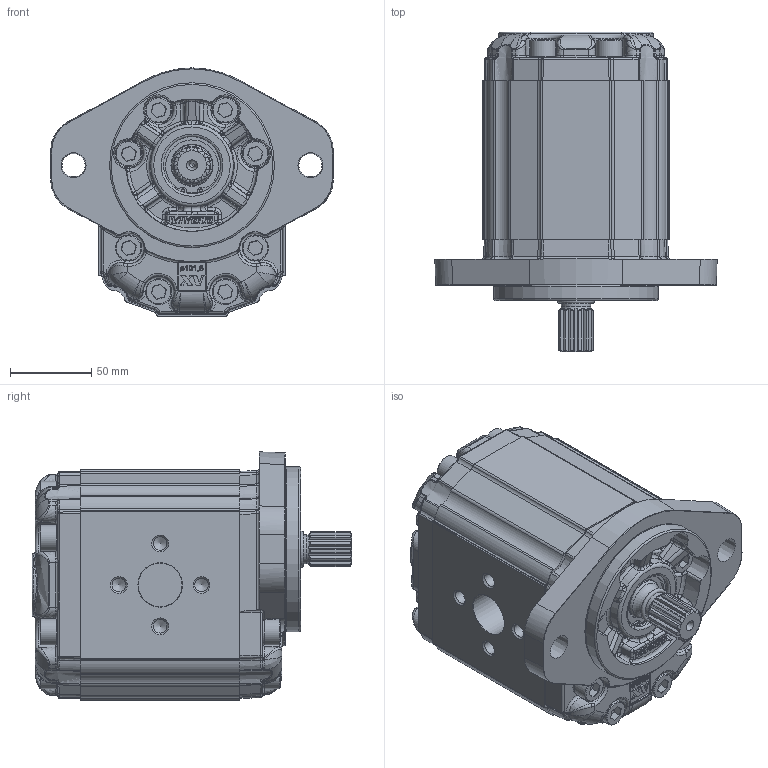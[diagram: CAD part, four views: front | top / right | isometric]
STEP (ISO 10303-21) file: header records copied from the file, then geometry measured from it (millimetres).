
FILE_DESCRIPTION(/* description */ ('Unknown'),/* implementation_level */ '2;1');
FILE_NAME(/* name */ 'X3M8231IBBF',/* time_stamp */ '2021-04-26T12:33:00+02:00',/* author */ ('Unknown'),/* organization */ ('Unknown'),/* preprocessor_version */ 'ST-DEVELOPER v16.7',/* originating_system */ 'Solid Edge',/* authorisation */ 'Unknown');
FILE_SCHEMA (('AUTOMOTIVE_DESIGN {1 0 10303 214 3 1 1}'));
Products named in the file (5): X3M8231IBBF; X3M31; 3I; X3BBH98; XM331-F
Assembly tree (4 placements, depth 2):
  X3M8231IBBF
    X3M31
    3I
    X3BBH98
    XM331-F
Bounding box: 174 x 197.2 x 153 mm (x, y, z)
Volume: 2244730.5 mm3; surface area: 212239.9 mm2
Topology: 4 solids, 21 shells, 3065 faces, 7898 edges, 4997 vertices
Faces by surface type: bspline 1317, plane 873, cylinder 654, cone 106, torus 99, sphere 16
Full cylindrical faces by diameter (mm): 2 x2, 8.376 x8, 10 x16, 15.8 x16, 16 x16, 18 x2, 24.98 x1, 25.5 x1, 26.8 x1, 27 x2, 29.425 x1, 31.42 x1, 33.304 x1, 34.7 x1, 35 x2, 35.2 x1, 37 x1, 101.6 x1
Entity records: 162889 total; most frequent: CARTESIAN_POINT 82483, ORIENTED_EDGE 15328, EDGE_CURVE 7664, DIRECTION 6742, B_SPLINE_CURVE_WITH_KNOTS 4985, VERTEX_POINT 4931, FACE_BOUND 3367, EDGE_LOOP 3358
